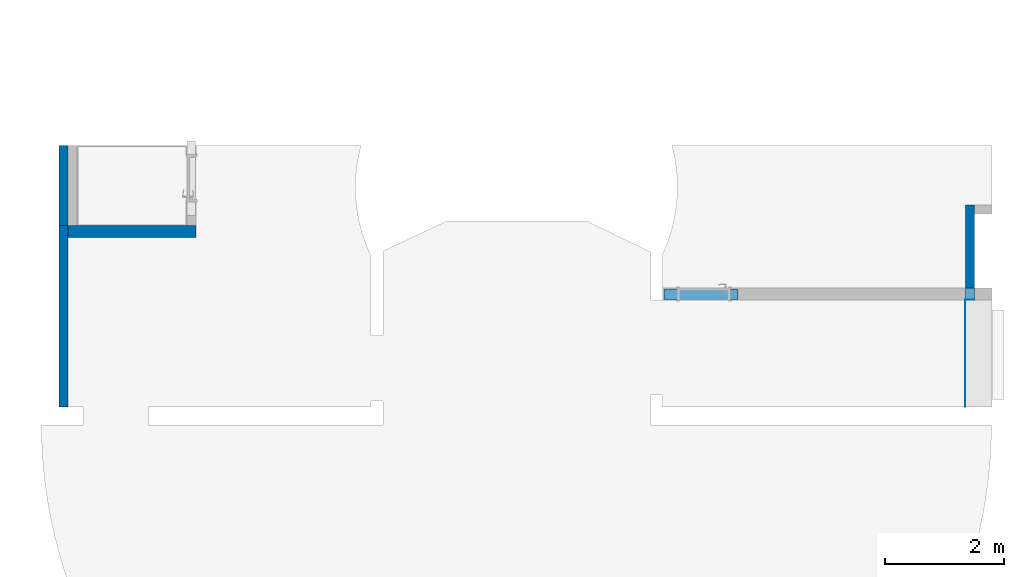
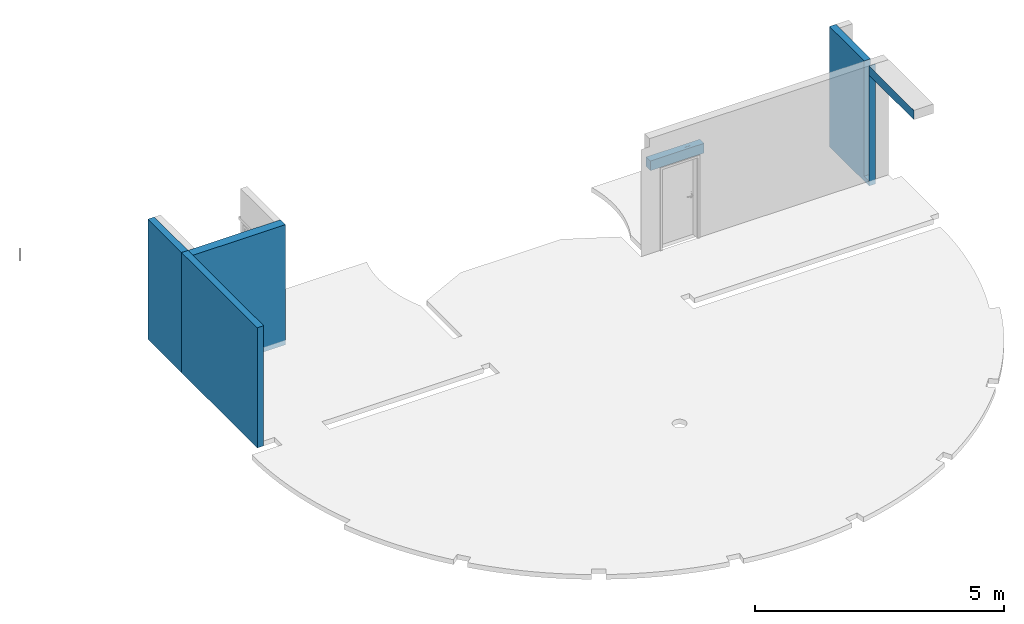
# One storey, part 2 of 9: 5 walls, 1 beam.
"""IFC4 building model written with IfcOpenShell, lengths in millimetres."""

from ifc_helpers import new_model, entity, si_unit, converted_unit, derived_unit, direction, frame, origin_with_axes, place, context, subcontext, project, spatial, polygons, source, transform, mapped, material, constituent, constituent_set, type_object, element, save


model = new_model("IFC4")

# Units and contexts
model_context = context("Model", 3, precision=0.01, world=origin_with_axes(), true_north=direction((0.0, 1.0)))
body_context = subcontext(model_context, "Body", "Model", "MODEL_VIEW")
ifc_project = project(units=[si_unit("LENGTHUNIT", "METRE", prefix="MILLI"), si_unit("AREAUNIT", "SQUARE_METRE"), si_unit("VOLUMEUNIT", "CUBIC_METRE"), converted_unit("PLANEANGLEUNIT", "DEGREE", entity("IfcPlaneAngleMeasure", 0.0174532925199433), si_unit("PLANEANGLEUNIT", "RADIAN"), dimensions=[0, 0, 0, 0, 0, 0, 0]), converted_unit("TIMEUNIT", "Year", entity("IfcTimeMeasure", 31557600.0), si_unit("TIMEUNIT", "SECOND"), dimensions=[0, 0, 1, 0, 0, 0, 0]), si_unit("MASSUNIT", "GRAM", prefix="KILO"), si_unit("THERMODYNAMICTEMPERATUREUNIT", "DEGREE_CELSIUS"), si_unit("LUMINOUSINTENSITYUNIT", "LUMEN"), si_unit("ENERGYUNIT", "JOULE", prefix="MEGA"), derived_unit("THERMALCONDUCTANCEUNIT", [(si_unit("POWERUNIT", "WATT"), 1), (si_unit("LENGTHUNIT", "METRE"), -1), (si_unit("THERMODYNAMICTEMPERATUREUNIT", "KELVIN"), -1)]), derived_unit("SPECIFICHEATCAPACITYUNIT", [(si_unit("ENERGYUNIT", "JOULE"), 1), (si_unit("MASSUNIT", "GRAM", prefix="KILO"), -1), (si_unit("THERMODYNAMICTEMPERATUREUNIT", "KELVIN"), -1)]), derived_unit("MASSDENSITYUNIT", [(si_unit("MASSUNIT", "GRAM", prefix="KILO"), 1), (si_unit("VOLUMEUNIT", "CUBIC_METRE"), -1)])], contexts=[model_context])

# Site, building, storey
site_placement = place(None, origin_with_axes())
site = spatial("IfcSite", under=ifc_project, at=site_placement, Name="Exteriér", CompositionType="ELEMENT")
building_placement = place(site_placement, origin_with_axes())
building = spatial("IfcBuilding", under=site, at=building_placement, Name="Univerzitní lezecké centrum", CompositionType="ELEMENT")
storey_placement = place(building_placement, origin_with_axes())
storey = spatial("IfcBuildingStorey", under=building, at=storey_placement, Name="1.NP", CompositionType="ELEMENT", Elevation=0.0)

# Beam
beam_type = type_object("IfcBeamType", Name="PTH Překlad KP7", PredefinedType="BEAM")
shared_shape = source(origin_with_axes(), body_context, "Body", "Tessellation", [
    polygons([(-625.0, 80.0, 0.0), (625.0, 80.0, 0.0), (625.0, 10.00000107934, 0.0), (-625.0, 10.00000107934, 0.0), (-625.0, 79.99999845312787, 17.00000071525), (625.0, 79.99999845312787, 17.00000071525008), (625.0, 30.29999809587, 16.99999709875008), (625.0, 30.29999809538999, 220.9999513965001), (625.0, 79.99999845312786, 220.9999992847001), (625.0, 79.99998239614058, 237.6644796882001), (625.0, 10.00000107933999, 237.6644745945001), (-625.0, 10.00000107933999, 237.6644745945), (-625.0, 79.99998239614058, 237.6644796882), (-625.0, 79.99999845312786, 220.9999992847), (-625.0, 30.29999809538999, 220.9999513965), (-625.0, 30.29999809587, 16.99999709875)], [[[1, 2, 3, 4]], [[5, 6, 2, 1]], [[2, 6, 7, 8, 9, 10, 11, 3]], [[4, 3, 11, 12]], [[1, 4, 12, 13, 14, 15, 16, 5]], [[16, 7, 6, 5]], [[15, 8, 7, 16]], [[14, 9, 8, 15]], [[13, 10, 9, 14]], [[12, 11, 10, 13]]], closed=True),
    polygons([(-625.0, 79.99999845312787, 17.00000071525), (625.0, 79.99999845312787, 17.00000071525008), (625.0, 30.29999809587, 16.99999709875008), (-625.0, 30.29999809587, 16.99999709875), (-625.0, 79.99999845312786, 220.9999992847), (625.0, 79.99999845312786, 220.9999992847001), (625.0, 30.29999809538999, 220.9999513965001), (625.0, 59.29999711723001, 38.99999933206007), (625.0, 59.05527973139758, 37.45491456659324), (625.0, 58.34508221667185, 36.06107346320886), (625.0, 57.23892365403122, 34.95491490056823), (625.0, 55.84508255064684, 34.24471738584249), (625.0, 54.29999778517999, 34.00000000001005), (625.0, 52.75491301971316, 34.24471738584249), (625.0, 51.36107191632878, 34.95491490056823), (625.0, 50.25491335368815, 36.06107346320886), (625.0, 49.54471583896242, 37.45491456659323), (625.0, 49.29999845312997, 38.99999933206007), (625.0, 49.54471583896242, 40.54508409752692), (625.0, 50.25491335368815, 41.93892520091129), (625.0, 51.36107191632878, 43.04508376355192), (625.0, 52.75491301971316, 43.75528127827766), (625.0, 54.29999778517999, 43.99999866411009), (625.0, 55.84508255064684, 43.75528127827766), (625.0, 57.23892365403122, 43.04508376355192), (625.0, 58.34508221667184, 41.93892520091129), (625.0, 59.05527973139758, 40.54508409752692), (625.0, 57.29984198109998, 201.0000022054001), (625.0, 57.10406902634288, 199.7639342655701), (625.0, 56.53591188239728, 198.6488609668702), (625.0, 55.65098572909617, 197.7639334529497), (625.0, 54.53591330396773, 197.1957745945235), (625.0, 53.29984566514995, 196.9999997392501), (625.0, 52.06377772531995, 197.1957726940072), (625.0, 50.94870442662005, 197.7639298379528), (625.0, 50.0637769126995, 198.648855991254), (625.0, 49.49561805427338, 199.7639284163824), (625.0, 49.29984319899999, 200.9999960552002), (625.0, 49.4956161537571, 202.2360639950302), (625.0, 50.0637732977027, 203.3511372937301), (625.0, 50.9486994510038, 204.2360648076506), (625.0, 52.06377187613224, 204.8042236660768), (625.0, 53.29983951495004, 204.9999985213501), (625.0, 54.53590745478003, 204.804225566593), (625.0, 55.65098075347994, 204.2360684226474), (625.0, 56.53590826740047, 203.3511422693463), (625.0, 57.1040671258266, 202.2360698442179), (-625.0, 30.29999809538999, 220.9999513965), (-625.0, 59.29999711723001, 38.99999933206), (-625.0, 59.05527973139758, 40.54508409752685), (-625.0, 58.34508221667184, 41.93892520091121), (-625.0, 57.23892365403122, 43.04508376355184), (-625.0, 55.84508255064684, 43.75528127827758), (-625.0, 54.29999778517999, 43.99999866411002), (-625.0, 52.75491301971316, 43.75528127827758), (-625.0, 51.36107191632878, 43.04508376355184), (-625.0, 50.25491335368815, 41.93892520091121), (-625.0, 49.54471583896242, 40.54508409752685), (-625.0, 49.29999845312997, 38.99999933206), (-625.0, 49.54471583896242, 37.45491456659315), (-625.0, 50.25491335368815, 36.06107346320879), (-625.0, 51.36107191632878, 34.95491490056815), (-625.0, 52.75491301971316, 34.24471738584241), (-625.0, 54.29999778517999, 34.00000000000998), (-625.0, 55.84508255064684, 34.24471738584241), (-625.0, 57.23892365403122, 34.95491490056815), (-625.0, 58.34508221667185, 36.06107346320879), (-625.0, 59.05527973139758, 37.45491456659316), (-625.0, 57.29984198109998, 201.0000022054), (-625.0, 57.1040671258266, 202.2360698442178), (-625.0, 56.53590826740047, 203.3511422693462), (-625.0, 55.65098075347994, 204.2360684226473), (-625.0, 54.53590745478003, 204.8042255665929), (-625.0, 53.29983951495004, 204.9999985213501), (-625.0, 52.06377187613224, 204.8042236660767), (-625.0, 50.9486994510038, 204.2360648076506), (-625.0, 50.0637732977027, 203.35113729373), (-625.0, 49.4956161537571, 202.2360639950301), (-625.0, 49.29984319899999, 200.9999960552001), (-625.0, 49.49561805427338, 199.7639284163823), (-625.0, 50.0637769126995, 198.6488559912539), (-625.0, 50.94870442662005, 197.7639298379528), (-625.0, 52.06377772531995, 197.1957726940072), (-625.0, 53.29984566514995, 196.9999997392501), (-625.0, 54.53591330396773, 197.1957745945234), (-625.0, 55.65098572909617, 197.7639334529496), (-625.0, 56.53591188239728, 198.6488609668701), (-625.0, 57.10406902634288, 199.76393426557)], [[[1, 2, 3, 4]], [[5, 6, 2, 1]], [[2, 6, 7, 3], [8, 9, 10, 11, 12, 13, 14, 15, 16, 17, 18, 19, 20, 21, 22, 23, 24, 25, 26, 27], [28, 29, 30, 31, 32, 33, 34, 35, 36, 37, 38, 39, 40, 41, 42, 43, 44, 45, 46, 47]], [[4, 3, 7, 48]], [[1, 4, 48, 5], [49, 50, 51, 52, 53, 54, 55, 56, 57, 58, 59, 60, 61, 62, 63, 64, 65, 66, 67, 68], [69, 70, 71, 72, 73, 74, 75, 76, 77, 78, 79, 80, 81, 82, 83, 84, 85, 86, 87, 88]], [[48, 7, 6, 5]], [[68, 9, 8, 49]], [[67, 10, 9, 68]], [[66, 11, 10, 67]], [[65, 12, 11, 66]], [[64, 13, 12, 65]], [[63, 14, 13, 64]], [[62, 15, 14, 63]], [[61, 16, 15, 62]], [[60, 17, 16, 61]], [[59, 18, 17, 60]], [[58, 19, 18, 59]], [[57, 20, 19, 58]], [[56, 21, 20, 57]], [[55, 22, 21, 56]], [[54, 23, 22, 55]], [[53, 24, 23, 54]], [[52, 25, 24, 53]], [[51, 26, 25, 52]], [[50, 27, 26, 51]], [[49, 8, 27, 50]], [[88, 29, 28, 69]], [[87, 30, 29, 88]], [[86, 31, 30, 87]], [[85, 32, 31, 86]], [[84, 33, 32, 85]], [[83, 34, 33, 84]], [[82, 35, 34, 83]], [[81, 36, 35, 82]], [[80, 37, 36, 81]], [[79, 38, 37, 80]], [[78, 39, 38, 79]], [[77, 40, 39, 78]], [[76, 41, 40, 77]], [[75, 42, 41, 76]], [[74, 43, 42, 75]], [[73, 44, 43, 74]], [[72, 45, 44, 73]], [[71, 46, 45, 72]], [[70, 47, 46, 71]], [[69, 28, 47, 70]]], closed=True),
    polygons([(-625.0, 59.29999910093, 39.0), (625.0, 59.29999910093, 39.00000000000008), (625.0, 59.05528168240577, 37.45491502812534), (-625.0, 59.05528168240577, 37.45491502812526), (-625.0, 59.05528168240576, 40.54508497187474), (625.0, 59.05528168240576, 40.54508497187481), (625.0, 58.34508407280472, 41.93892626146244), (625.0, 57.23892536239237, 43.04508497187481), (625.0, 55.84508407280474, 43.75528258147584), (625.0, 54.29999910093, 44.00000000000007), (625.0, 52.75491412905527, 43.75528258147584), (625.0, 51.36107283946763, 43.04508497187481), (625.0, 50.25491412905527, 41.93892626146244), (625.0, 49.54471651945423, 40.54508497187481), (625.0, 49.29999910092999, 39.00000000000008), (625.0, 49.54471651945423, 37.45491502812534), (625.0, 50.25491412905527, 36.06107373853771), (625.0, 51.36107283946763, 34.95491502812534), (625.0, 52.75491412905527, 34.2447174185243), (625.0, 54.29999910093, 34.00000000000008), (625.0, 55.84508407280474, 34.2447174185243), (625.0, 57.23892536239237, 34.95491502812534), (625.0, 58.34508407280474, 36.06107373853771), (-625.0, 58.34508407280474, 36.06107373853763), (-625.0, 57.23892536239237, 34.95491502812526), (-625.0, 55.84508407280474, 34.24471741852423), (-625.0, 54.29999910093, 34.0), (-625.0, 52.75491412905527, 34.24471741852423), (-625.0, 51.36107283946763, 34.95491502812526), (-625.0, 50.25491412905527, 36.06107373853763), (-625.0, 49.54471651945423, 37.45491502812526), (-625.0, 49.29999910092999, 39.0), (-625.0, 49.54471651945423, 40.54508497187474), (-625.0, 50.25491412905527, 41.93892626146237), (-625.0, 51.36107283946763, 43.04508497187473), (-625.0, 52.75491412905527, 43.75528258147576), (-625.0, 54.29999910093, 44.0), (-625.0, 55.84508407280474, 43.75528258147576), (-625.0, 57.23892536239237, 43.04508497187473), (-625.0, 58.34508407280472, 41.93892626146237)], [[[1, 2, 3, 4]], [[5, 6, 2, 1]], [[2, 6, 7, 8, 9, 10, 11, 12, 13, 14, 15, 16, 17, 18, 19, 20, 21, 22, 23, 3]], [[4, 3, 23, 24]], [[1, 4, 24, 25, 26, 27, 28, 29, 30, 31, 32, 33, 34, 35, 36, 37, 38, 39, 40, 5]], [[40, 7, 6, 5]], [[39, 8, 7, 40]], [[38, 9, 8, 39]], [[37, 10, 9, 38]], [[36, 11, 10, 37]], [[35, 12, 11, 36]], [[34, 13, 12, 35]], [[33, 14, 13, 34]], [[32, 15, 14, 33]], [[31, 16, 15, 32]], [[30, 17, 16, 31]], [[29, 18, 17, 30]], [[28, 19, 18, 29]], [[27, 20, 19, 28]], [[26, 21, 20, 27]], [[25, 22, 21, 26]], [[24, 23, 22, 25]]], closed=True),
    polygons([(-625.0, 49.29984384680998, 201.0), (625.0, 49.29984384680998, 201.0000000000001), (625.0, 49.49561778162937, 202.2360679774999), (-625.0, 49.49561778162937, 202.2360679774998), (-625.0, 49.49561778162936, 199.7639320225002), (625.0, 49.49561778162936, 199.7639320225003), (625.0, 50.06377586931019, 198.6488589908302), (625.0, 50.94870283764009, 197.7639320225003), (625.0, 52.0637758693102, 197.1957739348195), (625.0, 53.29984384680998, 197.0000000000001), (625.0, 54.53591182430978, 197.1957739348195), (625.0, 55.65098485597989, 197.7639320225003), (625.0, 56.53591182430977, 198.6488589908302), (625.0, 57.1040699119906, 199.7639320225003), (625.0, 57.29984384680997, 201.0000000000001), (625.0, 57.10406991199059, 202.2360679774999), (625.0, 56.53591182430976, 203.35114100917), (625.0, 55.65098485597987, 204.2360679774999), (625.0, 54.53591182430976, 204.8042260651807), (625.0, 53.29984384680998, 205.0000000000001), (625.0, 52.06377586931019, 204.8042260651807), (625.0, 50.94870283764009, 204.2360679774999), (625.0, 50.0637758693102, 203.35114100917), (-625.0, 50.0637758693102, 203.3511410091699), (-625.0, 50.94870283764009, 204.2360679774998), (-625.0, 52.06377586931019, 204.8042260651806), (-625.0, 53.29984384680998, 205.0), (-625.0, 54.53591182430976, 204.8042260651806), (-625.0, 55.65098485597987, 204.2360679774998), (-625.0, 56.53591182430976, 203.3511410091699), (-625.0, 57.10406991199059, 202.2360679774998), (-625.0, 57.29984384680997, 201.0), (-625.0, 57.1040699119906, 199.7639320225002), (-625.0, 56.53591182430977, 198.6488589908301), (-625.0, 55.65098485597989, 197.7639320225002), (-625.0, 54.53591182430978, 197.1957739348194), (-625.0, 53.29984384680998, 197.0), (-625.0, 52.0637758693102, 197.1957739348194), (-625.0, 50.94870283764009, 197.7639320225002), (-625.0, 50.06377586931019, 198.6488589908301)], [[[1, 2, 3, 4]], [[5, 6, 2, 1]], [[2, 6, 7, 8, 9, 10, 11, 12, 13, 14, 15, 16, 17, 18, 19, 20, 21, 22, 23, 3]], [[4, 3, 23, 24]], [[1, 4, 24, 25, 26, 27, 28, 29, 30, 31, 32, 33, 34, 35, 36, 37, 38, 39, 40, 5]], [[40, 7, 6, 5]], [[39, 8, 7, 40]], [[38, 9, 8, 39]], [[37, 10, 9, 38]], [[36, 11, 10, 37]], [[35, 12, 11, 36]], [[34, 13, 12, 35]], [[33, 14, 13, 34]], [[32, 15, 14, 33]], [[31, 16, 15, 32]], [[30, 17, 16, 31]], [[29, 18, 17, 30]], [[28, 19, 18, 29]], [[27, 20, 19, 28]], [[26, 21, 20, 27]], [[25, 22, 21, 26]], [[24, 23, 22, 25]]], closed=True),
    polygons([(-625.0, 80.0, 0.0), (-625.0, 110.0, 0.0), (625.0, 110.0, 0.0), (625.0, 80.0, 0.0), (-625.0, 80.00000000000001, 238.0), (-625.0, 110.0, 238.0), (625.0, 110.0, 238.0000000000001), (625.0, 80.00000000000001, 238.0000000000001)], [[[1, 2, 3, 4]], [[1, 5, 6, 2]], [[2, 6, 7, 3]], [[4, 3, 7, 8]], [[5, 1, 4, 8]], [[6, 5, 8, 7]]], closed=True),
    polygons([(-625.0, 110.0, 0.0), (-625.0, 179.99999892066, 0.0), (625.0, 179.99999892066, 0.0), (625.0, 110.0, 0.0), (-625.0, 110.0000015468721, 17.00000071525), (-625.0, 159.70000190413, 16.99999709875), (-625.0, 159.70000190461, 220.9999513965), (-625.0, 110.0000015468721, 220.9999992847), (-625.0, 110.0000176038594, 237.6644796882), (-625.0, 179.99999892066, 237.6644745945), (625.0, 179.99999892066, 237.6644745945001), (625.0, 110.0000176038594, 237.6644796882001), (625.0, 110.0000015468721, 220.9999992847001), (625.0, 159.70000190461, 220.9999513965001), (625.0, 159.70000190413, 16.99999709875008), (625.0, 110.0000015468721, 17.00000071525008)], [[[1, 2, 3, 4]], [[1, 5, 6, 7, 8, 9, 10, 2]], [[2, 10, 11, 3]], [[4, 3, 11, 12, 13, 14, 15, 16]], [[5, 1, 4, 16]], [[6, 5, 16, 15]], [[7, 6, 15, 14]], [[8, 7, 14, 13]], [[9, 8, 13, 12]], [[10, 9, 12, 11]]], closed=True),
    polygons([(-625.0, 110.0000015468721, 17.00000071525), (-625.0, 159.70000190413, 16.99999709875), (625.0, 159.70000190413, 16.99999709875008), (625.0, 110.0000015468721, 17.00000071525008), (-625.0, 110.0000015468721, 220.9999992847), (-625.0, 159.70000190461, 220.9999513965), (-625.0, 130.70000288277, 38.99999933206), (-625.0, 130.9447202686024, 37.45491456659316), (-625.0, 131.6549177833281, 36.06107346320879), (-625.0, 132.7610763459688, 34.95491490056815), (-625.0, 134.1549174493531, 34.24471738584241), (-625.0, 135.70000221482, 34.00000000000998), (-625.0, 137.2450869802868, 34.24471738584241), (-625.0, 138.6389280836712, 34.95491490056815), (-625.0, 139.7450866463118, 36.06107346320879), (-625.0, 140.4552841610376, 37.45491456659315), (-625.0, 140.70000154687, 38.99999933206), (-625.0, 140.4552841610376, 40.54508409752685), (-625.0, 139.7450866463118, 41.93892520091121), (-625.0, 138.6389280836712, 43.04508376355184), (-625.0, 137.2450869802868, 43.75528127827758), (-625.0, 135.70000221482, 43.99999866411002), (-625.0, 134.1549174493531, 43.75528127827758), (-625.0, 132.7610763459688, 43.04508376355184), (-625.0, 131.6549177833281, 41.93892520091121), (-625.0, 130.9447202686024, 40.54508409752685), (-625.0, 132.7001580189, 201.0000022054), (-625.0, 132.8959309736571, 199.76393426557), (-625.0, 133.4640881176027, 198.6488609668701), (-625.0, 134.3490142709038, 197.7639334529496), (-625.0, 135.4640866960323, 197.1957745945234), (-625.0, 136.7001543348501, 196.9999997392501), (-625.0, 137.9362222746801, 197.1957726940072), (-625.0, 139.0512955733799, 197.7639298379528), (-625.0, 139.9362230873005, 198.6488559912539), (-625.0, 140.5043819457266, 199.7639284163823), (-625.0, 140.700156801, 200.9999960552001), (-625.0, 140.5043838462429, 202.2360639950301), (-625.0, 139.9362267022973, 203.35113729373), (-625.0, 139.0513005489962, 204.2360648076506), (-625.0, 137.9362281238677, 204.8042236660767), (-625.0, 136.70016048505, 204.9999985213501), (-625.0, 135.46409254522, 204.8042255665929), (-625.0, 134.3490192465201, 204.2360684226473), (-625.0, 133.4640917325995, 203.3511422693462), (-625.0, 132.8959328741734, 202.2360698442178), (625.0, 159.70000190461, 220.9999513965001), (625.0, 110.0000015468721, 220.9999992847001), (625.0, 130.70000288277, 38.99999933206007), (625.0, 130.9447202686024, 40.54508409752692), (625.0, 131.6549177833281, 41.93892520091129), (625.0, 132.7610763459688, 43.04508376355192), (625.0, 134.1549174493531, 43.75528127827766), (625.0, 135.70000221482, 43.99999866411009), (625.0, 137.2450869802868, 43.75528127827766), (625.0, 138.6389280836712, 43.04508376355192), (625.0, 139.7450866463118, 41.93892520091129), (625.0, 140.4552841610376, 40.54508409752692), (625.0, 140.70000154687, 38.99999933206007), (625.0, 140.4552841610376, 37.45491456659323), (625.0, 139.7450866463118, 36.06107346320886), (625.0, 138.6389280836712, 34.95491490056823), (625.0, 137.2450869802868, 34.24471738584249), (625.0, 135.70000221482, 34.00000000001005), (625.0, 134.1549174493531, 34.24471738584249), (625.0, 132.7610763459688, 34.95491490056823), (625.0, 131.6549177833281, 36.06107346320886), (625.0, 130.9447202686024, 37.45491456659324), (625.0, 132.7001580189, 201.0000022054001), (625.0, 132.8959328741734, 202.2360698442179), (625.0, 133.4640917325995, 203.3511422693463), (625.0, 134.3490192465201, 204.2360684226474), (625.0, 135.46409254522, 204.804225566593), (625.0, 136.70016048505, 204.9999985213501), (625.0, 137.9362281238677, 204.8042236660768), (625.0, 139.0513005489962, 204.2360648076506), (625.0, 139.9362267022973, 203.3511372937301), (625.0, 140.5043838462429, 202.2360639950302), (625.0, 140.700156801, 200.9999960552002), (625.0, 140.5043819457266, 199.7639284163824), (625.0, 139.9362230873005, 198.648855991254), (625.0, 139.0512955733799, 197.7639298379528), (625.0, 137.9362222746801, 197.1957726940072), (625.0, 136.7001543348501, 196.9999997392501), (625.0, 135.4640866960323, 197.1957745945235), (625.0, 134.3490142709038, 197.7639334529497), (625.0, 133.4640881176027, 198.6488609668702), (625.0, 132.8959309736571, 199.7639342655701)], [[[1, 2, 3, 4]], [[1, 5, 6, 2], [7, 8, 9, 10, 11, 12, 13, 14, 15, 16, 17, 18, 19, 20, 21, 22, 23, 24, 25, 26], [27, 28, 29, 30, 31, 32, 33, 34, 35, 36, 37, 38, 39, 40, 41, 42, 43, 44, 45, 46]], [[2, 6, 47, 3]], [[4, 3, 47, 48], [49, 50, 51, 52, 53, 54, 55, 56, 57, 58, 59, 60, 61, 62, 63, 64, 65, 66, 67, 68], [69, 70, 71, 72, 73, 74, 75, 76, 77, 78, 79, 80, 81, 82, 83, 84, 85, 86, 87, 88]], [[5, 1, 4, 48]], [[6, 5, 48, 47]], [[8, 7, 49, 68]], [[9, 8, 68, 67]], [[10, 9, 67, 66]], [[11, 10, 66, 65]], [[12, 11, 65, 64]], [[13, 12, 64, 63]], [[14, 13, 63, 62]], [[15, 14, 62, 61]], [[16, 15, 61, 60]], [[17, 16, 60, 59]], [[18, 17, 59, 58]], [[19, 18, 58, 57]], [[20, 19, 57, 56]], [[21, 20, 56, 55]], [[22, 21, 55, 54]], [[23, 22, 54, 53]], [[24, 23, 53, 52]], [[25, 24, 52, 51]], [[26, 25, 51, 50]], [[7, 26, 50, 49]], [[28, 27, 69, 88]], [[29, 28, 88, 87]], [[30, 29, 87, 86]], [[31, 30, 86, 85]], [[32, 31, 85, 84]], [[33, 32, 84, 83]], [[34, 33, 83, 82]], [[35, 34, 82, 81]], [[36, 35, 81, 80]], [[37, 36, 80, 79]], [[38, 37, 79, 78]], [[39, 38, 78, 77]], [[40, 39, 77, 76]], [[41, 40, 76, 75]], [[42, 41, 75, 74]], [[43, 42, 74, 73]], [[44, 43, 73, 72]], [[45, 44, 72, 71]], [[46, 45, 71, 70]], [[27, 46, 70, 69]]], closed=True),
    polygons([(-625.0, 130.70000089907, 39.0), (-625.0, 130.9447183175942, 37.45491502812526), (625.0, 130.9447183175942, 37.45491502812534), (625.0, 130.70000089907, 39.00000000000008), (-625.0, 130.9447183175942, 40.54508497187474), (-625.0, 131.6549159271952, 41.93892626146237), (-625.0, 132.7610746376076, 43.04508497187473), (-625.0, 134.1549159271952, 43.75528258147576), (-625.0, 135.70000089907, 44.0), (-625.0, 137.2450858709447, 43.75528258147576), (-625.0, 138.6389271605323, 43.04508497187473), (-625.0, 139.7450858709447, 41.93892626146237), (-625.0, 140.4552834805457, 40.54508497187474), (-625.0, 140.70000089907, 39.0), (-625.0, 140.4552834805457, 37.45491502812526), (-625.0, 139.7450858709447, 36.06107373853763), (-625.0, 138.6389271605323, 34.95491502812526), (-625.0, 137.2450858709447, 34.24471741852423), (-625.0, 135.70000089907, 34.0), (-625.0, 134.1549159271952, 34.24471741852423), (-625.0, 132.7610746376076, 34.95491502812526), (-625.0, 131.6549159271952, 36.06107373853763), (625.0, 131.6549159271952, 36.06107373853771), (625.0, 132.7610746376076, 34.95491502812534), (625.0, 134.1549159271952, 34.2447174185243), (625.0, 135.70000089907, 34.00000000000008), (625.0, 137.2450858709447, 34.2447174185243), (625.0, 138.6389271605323, 34.95491502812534), (625.0, 139.7450858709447, 36.06107373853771), (625.0, 140.4552834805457, 37.45491502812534), (625.0, 140.70000089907, 39.00000000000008), (625.0, 140.4552834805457, 40.54508497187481), (625.0, 139.7450858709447, 41.93892626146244), (625.0, 138.6389271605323, 43.04508497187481), (625.0, 137.2450858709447, 43.75528258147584), (625.0, 135.70000089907, 44.00000000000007), (625.0, 134.1549159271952, 43.75528258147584), (625.0, 132.7610746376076, 43.04508497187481), (625.0, 131.6549159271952, 41.93892626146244), (625.0, 130.9447183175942, 40.54508497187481)], [[[1, 2, 3, 4]], [[1, 5, 6, 7, 8, 9, 10, 11, 12, 13, 14, 15, 16, 17, 18, 19, 20, 21, 22, 2]], [[2, 22, 23, 3]], [[4, 3, 23, 24, 25, 26, 27, 28, 29, 30, 31, 32, 33, 34, 35, 36, 37, 38, 39, 40]], [[5, 1, 4, 40]], [[6, 5, 40, 39]], [[7, 6, 39, 38]], [[8, 7, 38, 37]], [[9, 8, 37, 36]], [[10, 9, 36, 35]], [[11, 10, 35, 34]], [[12, 11, 34, 33]], [[13, 12, 33, 32]], [[14, 13, 32, 31]], [[15, 14, 31, 30]], [[16, 15, 30, 29]], [[17, 16, 29, 28]], [[18, 17, 28, 27]], [[19, 18, 27, 26]], [[20, 19, 26, 25]], [[21, 20, 25, 24]], [[22, 21, 24, 23]]], closed=True),
    polygons([(-625.0, 140.70015615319, 201.0), (-625.0, 140.5043822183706, 202.2360679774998), (625.0, 140.5043822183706, 202.2360679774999), (625.0, 140.70015615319, 201.0000000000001), (-625.0, 140.5043822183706, 199.7639320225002), (-625.0, 139.9362241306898, 198.6488589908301), (-625.0, 139.0512971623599, 197.7639320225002), (-625.0, 137.9362241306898, 197.1957739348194), (-625.0, 136.70015615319, 197.0), (-625.0, 135.4640881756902, 197.1957739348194), (-625.0, 134.3490151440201, 197.7639320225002), (-625.0, 133.4640881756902, 198.6488589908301), (-625.0, 132.8959300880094, 199.7639320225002), (-625.0, 132.70015615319, 201.0), (-625.0, 132.8959300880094, 202.2360679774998), (-625.0, 133.4640881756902, 203.3511410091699), (-625.0, 134.3490151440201, 204.2360679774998), (-625.0, 135.4640881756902, 204.8042260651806), (-625.0, 136.70015615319, 205.0), (-625.0, 137.9362241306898, 204.8042260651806), (-625.0, 139.0512971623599, 204.2360679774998), (-625.0, 139.9362241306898, 203.3511410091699), (625.0, 139.9362241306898, 203.35114100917), (625.0, 139.0512971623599, 204.2360679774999), (625.0, 137.9362241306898, 204.8042260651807), (625.0, 136.70015615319, 205.0000000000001), (625.0, 135.4640881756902, 204.8042260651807), (625.0, 134.3490151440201, 204.2360679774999), (625.0, 133.4640881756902, 203.35114100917), (625.0, 132.8959300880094, 202.2360679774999), (625.0, 132.70015615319, 201.0000000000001), (625.0, 132.8959300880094, 199.7639320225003), (625.0, 133.4640881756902, 198.6488589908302), (625.0, 134.3490151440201, 197.7639320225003), (625.0, 135.4640881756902, 197.1957739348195), (625.0, 136.70015615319, 197.0000000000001), (625.0, 137.9362241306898, 197.1957739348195), (625.0, 139.0512971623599, 197.7639320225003), (625.0, 139.9362241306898, 198.6488589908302), (625.0, 140.5043822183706, 199.7639320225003)], [[[1, 2, 3, 4]], [[1, 5, 6, 7, 8, 9, 10, 11, 12, 13, 14, 15, 16, 17, 18, 19, 20, 21, 22, 2]], [[2, 22, 23, 3]], [[4, 3, 23, 24, 25, 26, 27, 28, 29, 30, 31, 32, 33, 34, 35, 36, 37, 38, 39, 40]], [[5, 1, 4, 40]], [[6, 5, 40, 39]], [[7, 6, 39, 38]], [[8, 7, 38, 37]], [[9, 8, 37, 36]], [[10, 9, 36, 35]], [[11, 10, 35, 34]], [[12, 11, 34, 33]], [[13, 12, 33, 32]], [[14, 13, 32, 31]], [[15, 14, 31, 30]], [[16, 15, 30, 29]], [[17, 16, 29, 28]], [[18, 17, 28, 27]], [[19, 18, 27, 26]], [[20, 19, 26, 25]], [[21, 20, 25, 24]], [[22, 21, 24, 23]]], closed=True),
])
beam_placement = place(storey_placement, frame((5549.951161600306, 1800.480756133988, 2026.0), z_axis=(0.0, 0.0, 1.0), x_axis=(1.0, 0.0, 0.0)))
element("IfcBeam", 1, at=beam_placement, inside=storey, type_object=beam_type, Name="Pk03", PredefinedType="BEAM", context=body_context, shape_type="MappedRepresentation", body=[
    mapped(shared_shape, transform((0.0, 0.0, 0.0))),
])

# Walls
ifc_material_1 = material(Name="Keramické tvárnice nenosné tl 200 mm")
ifc_constituent_1 = constituent(ifc_material_1, Name="Keramické tvárnice nenosné tl 200 mm")
ifc_constituent_set_1 = constituent_set(constituents=[ifc_constituent_1], Name="!Vnitřní keramická stěna 200 mm - nenosná*")
wall_type_1 = type_object("IfcWallType", Name="!Vnitřní keramická stěna 200 mm - nenosná* 200", PredefinedType="NOTDEFINED")
wall_1_placement = place(storey_placement, frame((-5100.148351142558, 3050.000000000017, -120.000000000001), z_axis=(0.0, 0.0, 1.0), x_axis=(1.0, 0.0, 0.0)))
element("IfcWall", 2, at=wall_1_placement, inside=storey, type_object=wall_type_1, material=ifc_constituent_set_1, Name="St06*", PredefinedType="NOTDEFINED", context=body_context, shape_type="Tessellation", body=[
    polygons([(2149.739482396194, -199.9999999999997, 0.0), (0.0, -200.0000000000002, 0.0), (0.0, 0.0, 0.0), (2149.739482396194, 0.0, 0.0), (2149.739482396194, -199.9999999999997, 2950.000000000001), (0.0, -199.9999999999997, 2950.000000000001), (0.0, 0.0, 2950.000000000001), (2149.739482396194, 0.0, 2950.000000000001)], [[[1, 2, 3, 4]], [[5, 6, 2, 1]], [[3, 2, 6, 7]], [[4, 3, 7, 8]], [[4, 8, 5, 1]], [[8, 7, 6, 5]]], closed=True),
])
ifc_material_2 = material(Name="Keramické tvárnice nenosné tl. 150 mm")
wall_type_2 = type_object("IfcWallType", Name="Keramické tvárnice nenosné tl. 150 mm 150", PredefinedType="NOTDEFINED")
wall_2_placement = place(storey_placement, frame((-5250.148351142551, 4700.000000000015, -120.000000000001), z_axis=(0.0, 0.0, 1.0), x_axis=(0.0, -1.0, 0.0)))
element("IfcWall", 3, at=wall_2_placement, inside=storey, type_object=wall_type_2, material=ifc_material_2, Name="St08", PredefinedType="NOTDEFINED", context=body_context, shape_type="Tessellation", body=[
    polygons([(299.9999999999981, 0.0, 2950.000000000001), (1649.999999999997, 0.0, 2950.000000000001), (1649.999999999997, 150.0000000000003, 2950.000000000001), (299.9999999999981, 150.0000000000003, 2950.000000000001), (299.9999999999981, 0.0, 0.0), (1649.999999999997, 0.0, 0.0), (1649.999999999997, 149.9999999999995, 0.0), (299.9999999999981, 150.0000000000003, 0.0)], [[[1, 2, 3, 4]], [[5, 6, 2, 1]], [[3, 2, 6, 7]], [[4, 3, 7, 8]], [[5, 1, 4, 8]], [[8, 7, 6, 5]]], closed=True),
])
wall_3_placement = place(storey_placement, frame((-5250.148351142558, 3050.000000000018, -120.000000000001), z_axis=(0.0, 0.0, 1.0), x_axis=(0.0, -1.0, 0.0)))
element("IfcWall", 4, at=wall_3_placement, inside=storey, type_object=wall_type_2, material=ifc_material_2, Name="St07", PredefinedType="NOTDEFINED", context=body_context, shape_type="Tessellation", body=[
    polygons([(3050.000000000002, 0.0, 2950.000000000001), (3050.000000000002, 149.9999999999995, 2950.000000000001), (0.0, 150.0000000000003, 2950.000000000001), (0.0, 0.0, 2950.000000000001), (3050.000000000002, 0.0, 0.0), (3050.000000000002, 149.9999999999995, 0.0), (0.0, 150.0000000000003, 0.0), (0.0, 0.0, 0.0)], [[[1, 2, 3, 4]], [[2, 1, 5, 6]], [[2, 6, 7, 3]], [[8, 4, 3, 7]], [[5, 1, 4, 8]], [[6, 5, 8, 7]]], closed=True),
])
ifc_constituent_2 = constituent(ifc_material_2, Name="Keramické tvárnice nenosné tl. 150 mm")
ifc_constituent_set_2 = constituent_set(constituents=[ifc_constituent_2], Name="!Vnitřní keramická stěna 150 mm - nenosná s omítkou")
wall_type_3 = type_object("IfcWallType", Name="!Vnitřní keramická stěna 150 mm - nenosná s omítkou 150", PredefinedType="NOTDEFINED")
wall_4_placement = place(storey_placement, frame((10149.97505193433, 3400.480752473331, -120.000000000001), z_axis=(0.0, 0.0, 1.0), x_axis=(6.764466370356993e-05, -0.9999999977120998, 0.0)))
element("IfcWall", 5, at=wall_4_placement, inside=storey, type_object=wall_type_3, material=ifc_constituent_set_2, Name="St07", PredefinedType="NOTDEFINED", context=body_context, shape_type="Tessellation", body=[
    polygons([(1599.999999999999, 0.0, 0.0), (1600.000000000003, 4.601830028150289e-08, 120.000000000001), (1600.00000000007, 1.043082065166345e-06, 2720.000000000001), (1599.999999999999, -150.0000000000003, 2720.000000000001), (1599.999999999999, -150.0000000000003, 0.0), (1399.999999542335, 9.203677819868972e-07, 2950.000000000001), (1399.99999954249, 1.043082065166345e-06, 120.000000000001), (0.0, 0.0, 0.0), (0.0, 6.136424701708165e-08, 2950.000000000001), (1599.98985330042, -150.0000000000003, 120.000000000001), (1599.98985330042, -150.0000000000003, 2720.000000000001), (1399.98985284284, -150.0000000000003, 120.000000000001), (1399.989852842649, -150.0000000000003, 2950.000000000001), (-0.01014669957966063, -150.0000000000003, 2950.000000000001), (-0.01014669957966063, -150.0000000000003, 0.0)], [[[1, 2, 3, 4, 5]], [[6, 7, 2, 1, 8, 9]], [[10, 11, 3, 2]], [[4, 3, 11]], [[10, 12, 13, 14, 15, 5, 4, 11]], [[5, 15, 8, 1]], [[12, 7, 6, 13]], [[10, 2, 7, 12]], [[15, 14, 9, 8]], [[14, 13, 6, 9]]], closed=True),
])
ifc_constituent_3 = constituent(ifc_material_2, Name="Keramické tvárnice nenosné tl. 150 mm")
ifc_constituent_set_3 = constituent_set(constituents=[ifc_constituent_3], Name="!Vnitřní keramická stěna 150 mm - nenosná s omítkou")
wall_5_placement = place(storey_placement, frame((10150.08328339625, 1800.480756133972, 2600.0), z_axis=(0.0, 0.0, 1.0), x_axis=(-0.0005215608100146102, -0.9999998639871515, 0.0)))
element("IfcWall", 6, at=wall_5_placement, inside=storey, type_object=wall_type_3, material=ifc_constituent_set_3, Name="St07", PredefinedType="NOTDEFINED", context=body_context, shape_type="Tessellation", body=[
    polygons([(1800.558720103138, -149.0124804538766, 230.0000000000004), (0.07820885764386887, -149.9515406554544, 230.0000000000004), (-5.442313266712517e-10, 1.043082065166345e-06, 230.0000000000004), (0.04419041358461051, -150.0000000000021, 229.9999999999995), (1800.559235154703, -150.0000000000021, 229.9999999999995), (1800.558720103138, -149.0124804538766, 0.0), (0.07820885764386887, -149.9515406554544, 0.0), (-5.442313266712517e-10, 1.043082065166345e-06, 0.0), (0.04419041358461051, -150.0000000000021, 0.0), (1800.559235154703, -150.0000000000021, 0.0)], [[[1, 2, 3, 4, 5]], [[2, 1, 6, 7]], [[8, 3, 2, 7]], [[3, 8, 9, 4]], [[5, 4, 9, 10]], [[6, 1, 5, 10]], [[7, 6, 10, 9, 8]]], closed=True),
])

save(model, "model.ifc")
